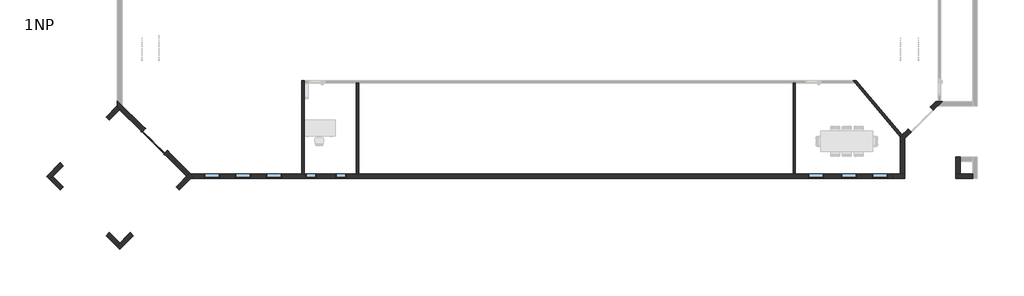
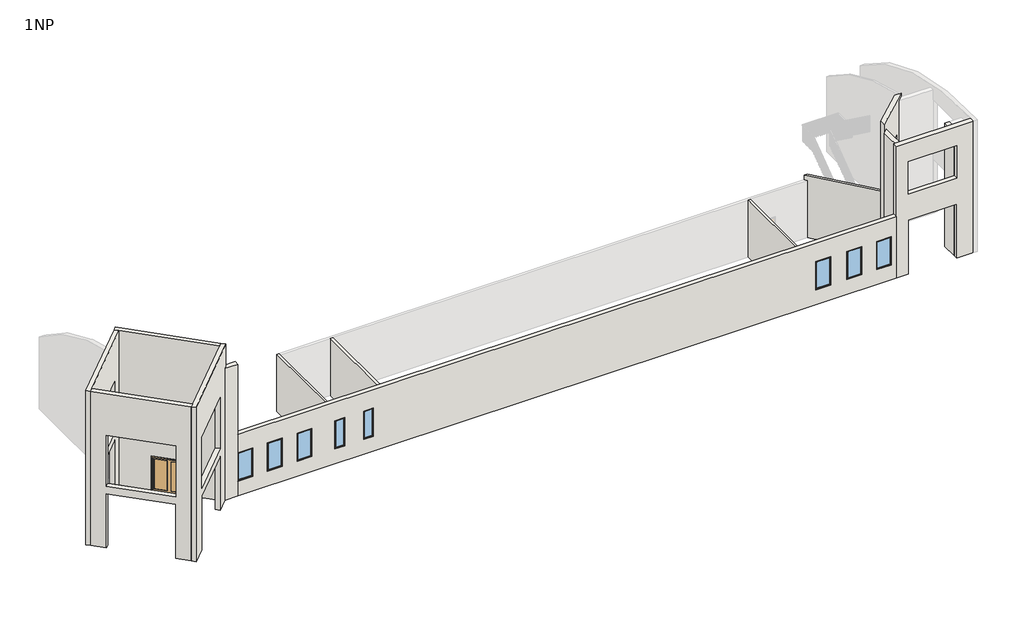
# One storey, part 1 of 2: 14 walls, 8 windows, 1 door.
"""IFC4 building model written with IfcOpenShell, lengths in millimetres."""

from ifc_helpers import new_model, si_unit, frame, origin, origin_with_axes, place, context, project, spatial, polyline, circle_curve, ellipse_curve, outline, extrude, faceted_brep, transform, mapped, element, save
from ifc_brep_helpers import plane_surface, cylinder_surface, advanced_brep
from components import door_1800_x_1970mm_ce9160c6, window_0610_x_1830mm_aeee110f, window_0915_x_1830mm_7ee91fd3

model = new_model("IFC4")

# Units and contexts
model_context = context("Model", 3, world=origin())
ifc_project = project(units=[si_unit("LENGTHUNIT", "METRE", prefix="MILLI")], contexts=[model_context])

# Site, building, storey
site = spatial("IfcSite", under=ifc_project)
building = spatial("IfcBuilding", under=site)
storey = spatial("IfcBuildingStorey", under=building, Name="1NP", Elevation=0.0)

# Door
placement = place(None, origin())
door_1800_x_1970mm_shape = door_1800_x_1970mm_ce9160c6(model_context)
element("IfcDoor", 1, ObjectType="Dvoukridle prosklene : 1800 x 1970mm", at=placement, inside=storey, context=model_context, shape_type="MappedRepresentation", body=[
    mapped(door_1800_x_1970mm_shape, transform((-9492.0310093, -2706.151406, 0.0), x_axis=(-0.7071067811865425, 0.7071067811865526, 0.0), y_axis=(-0.7071067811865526, -0.7071067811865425, 0.0), z_axis=(0.0, 0.0, 1.0))),
])

# Walls
element("IfcWall", 2, ObjectType="Exterior - EIFS on Mtl. Stud", at=placement, inside=storey, context=model_context, shape_type="AdvancedBrep", body=[
    advanced_brep(
    [(38455.6755273, -4624.9448694, 0.0), (37722.6755273, -4624.9448694, 0.0), (37455.6755273, -4624.9448694, 0.0), (37455.6755273, -4624.9448694, 3500.0), (34472.6755273, -4624.9448694, 3500.0), (34472.6755273, -4624.9448694, 0.0), (34205.6755273, -4624.9448694, 0.0), (33755.6755273, -4624.9448694, 0.0), (33755.6755273, -4624.9448694, 4000.0), (33755.6755273, -4624.9448694, 8556.4380679), (38455.6755273, -4624.9448694, 8556.4380679), (37455.6755273, -4624.9448694, 7300.0), (34472.6755273, -4624.9448694, 7300.0), (34472.6755273, -4624.9448694, 5200.0), (37455.6755273, -4624.9448694, 5200.0), (38455.6755273, -4891.9448694, 0.0), (38455.6755273, -4891.9448694, 8541.7849302), (33755.6755273, -4891.9448694, 8541.7849302), (33755.6755273, -4891.9448694, 4000.0), (33755.6755273, -4891.9448694, 0.0), (34472.6755273, -4891.9448694, 0.0), (34472.6755273, -4891.9448694, 3500.0), (37455.6755273, -4891.9448694, 3500.0), (37455.6755273, -4891.9448694, 0.0), (37455.6755273, -4891.9448694, 7300.0), (37455.6755273, -4891.9448694, 5200.0), (34472.6755273, -4891.9448694, 5200.0), (34472.6755273, -4891.9448694, 7300.0)],
    [
        (0, 1),
        (1, 2),
        (2, 3),
        (3, 4),
        (4, 5),
        (5, 6),
        (6, 7),
        (7, 8),
        (8, 9),
        (9, 10),
        (10, 0),
        (11, 12),
        (12, 13),
        (13, 14),
        (14, 11),
        (15, 16),
        (16, 17),
        (17, 18),
        (18, 19),
        (19, 20),
        (20, 21),
        (21, 22),
        (22, 23),
        (23, 15),
        (24, 25),
        (25, 26),
        (26, 27),
        (27, 24),
        (0, 15),
        (23, 2),
        (3, 22),
        (21, 4),
        (20, 5),
        (19, 7),
        (17, 9, circle_curve(frame((33755.6755273, -3782.5530793, -9232.9575956), z_axis=(-1.0, 0.0, 0.0), x_axis=(0.0, -1.0, 0.0)), 17809.3296337)),
        (11, 24),
        (27, 12),
        (13, 26),
        (25, 14),
        (10, 16, circle_curve(frame((38455.6755273, -3782.5530793, -9232.9575956), z_axis=(1.0, 0.0, 0.0), x_axis=(0.0, -1.0, 0.0)), 17809.3296337)),
    ],
    [
        plane_surface(frame((12455.6755273, -4624.9448694, 0.0), z_axis=(0.0, 1.0, 0.0), x_axis=(-1.0, 0.0, 0.0))),
        plane_surface(frame((12455.6755273, -4891.9448694, 0.0), z_axis=(0.0, -1.0, 0.0), x_axis=(1.0, 0.0, 0.0))),
        plane_surface(frame((38589.1755273, -4624.9448694, 0.0), z_axis=(0.0, 0.0, -1.0), x_axis=(0.0, -1.0, 0.0))),
        plane_surface(frame((37589.1755273, -4624.9448694, 3500.0), z_axis=(0.0, 0.0, -1.0), x_axis=(0.0, -1.0, 0.0))),
        plane_surface(frame((34472.6755273, -4624.9448694, 3500.0), z_axis=(1.0, 0.0, 0.0), x_axis=(0.0, -1.0, 0.0))),
        plane_surface(frame((34472.6755273, -4624.9448694, 0.0), z_axis=(0.0, 0.0, -1.0), x_axis=(0.0, -1.0, 0.0))),
        plane_surface(frame((33755.6755273, -4624.9448694, 0.0), z_axis=(-1.0, 0.0, 0.0), x_axis=(0.0, -1.0, 0.0))),
        plane_surface(frame((37589.1755273, -4624.9448694, 7300.0), z_axis=(0.0, 0.0, -1.0), x_axis=(0.0, -1.0, 0.0))),
        plane_surface(frame((34339.1755273, -4624.9448694, 5200.0), z_axis=(0.0, 0.0, 1.0), x_axis=(0.0, -1.0, 0.0))),
        plane_surface(frame((38455.6755273, 5741.5551306, 0.0), z_axis=(1.0, 0.0, 0.0), x_axis=(0.0, -1.0, 0.0))),
        plane_surface(frame((34472.6755273, -4758.4448694, 0.0), z_axis=(1.0, 0.0, 0.0), x_axis=(0.0, 1.0, 0.0))),
        plane_surface(frame((37455.6755273, -4758.4448694, 0.0), z_axis=(-1.0, 0.0, 0.0), x_axis=(0.0, -1.0, 0.0))),
        cylinder_surface(frame((39922.6755273, -3782.5530793, -9232.9575956), z_axis=(1.0, 0.0, 0.0), x_axis=(0.0, -1.0, 0.0)), 17809.3296337),
    ],
    [
        (0, [[1, 2, 3, 4, 5, 6, 7, 8, 9, 10, 11], [12, 13, 14, 15]]),
        (1, [[16, 17, 18, 19, 20, 21, 22, 23, 24], [25, 26, 27, 28]]),
        (2, [[-2, -1, 29, -24, 30]]),
        (3, [[-4, 31, -22, 32]]),
        (4, [[-5, -32, -21, 33]]),
        (5, [[-7, -6, -33, -20, 34]]),
        (6, [[-9, -8, -34, -19, -18, 35]]),
        (7, [[-12, 36, -28, 37]]),
        (8, [[-14, 38, -26, 39]]),
        (9, [[-11, 40, -16, -29]]),
        (10, [[-13, -37, -27, -38]]),
        (11, [[-3, -30, -23, -31]]),
        (11, [[-15, -39, -25, -36]]),
        (12, [[-10, -35, -17, -40]]),
    ],
),
])
element("IfcWall", 3, ObjectType="Exterior - EIFS on Mtl. Stud", at=placement, inside=storey, context=model_context, shape_type="AdvancedBrep", body=[
    advanced_brep(
    [(-6587.8076313, -4624.9448694, 0.0), (-7387.8076313, -4624.9448694, 0.0), (-7387.8076313, -4624.9448694, 8556.4380679), (-6587.8076313, -4624.9448694, 8556.4380679), (-6587.8076313, -4624.9448694, 8000.0), (-6587.8076313, -4624.9448694, 4000.0), (-6587.8076313, -4624.9448694, 2800.0), (-6595.0744727, -4624.9448694, 2800.0), (-6595.0744727, -4624.9448694, 970.0), (-6587.8076313, -4624.9448694, 970.0), (-7387.8076313, -4891.9448694, 0.0), (-6587.8076313, -4891.9448694, 0.0), (-6587.8076313, -4891.9448694, 970.0), (-6595.0744727, -4891.9448694, 970.0), (-6595.0744727, -4891.9448694, 2800.0), (-6587.8076313, -4891.9448694, 2800.0), (-6587.8076313, -4891.9448694, 4000.0), (-6587.8076313, -4891.9448694, 8000.0), (-6587.8076313, -4891.9448694, 8541.7849302), (-7387.8076313, -4891.9448694, 8541.7849302), (-7254.3076313, -4758.4448694, 0.0), (-7254.3076313, -4758.4448694, 8549.6141311)],
    [
        (0, 1),
        (1, 2),
        (2, 3),
        (3, 4),
        (4, 5),
        (5, 6),
        (6, 7),
        (7, 8),
        (8, 9),
        (9, 0),
        (10, 11),
        (11, 12),
        (12, 13),
        (13, 14),
        (14, 15),
        (15, 16),
        (16, 17),
        (17, 18),
        (18, 19),
        (19, 10),
        (0, 11),
        (10, 20),
        (20, 1),
        (9, 12),
        (3, 18, circle_curve(frame((-6587.8076313, -3782.5530793, -9232.9575956), z_axis=(1.0, 0.0, 0.0), x_axis=(0.0, -1.0, 0.0)), 17809.3296337)),
        (15, 6),
        (20, 21),
        (21, 2, ellipse_curve(frame((-8230.1994214, -3782.5530793, -9232.9575956), z_axis=(-0.7071067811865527, -0.7071067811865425, 0.0), x_axis=(0.7071067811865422, -0.7071067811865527, 0.0)), 25186.1955048, 17809.3296337)),
        (19, 21, ellipse_curve(frame((-6278.4158411, -3782.5530793, -9232.9575956), z_axis=(-0.7071067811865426, 0.7071067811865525, 0.0), x_axis=(0.7071067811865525, 0.7071067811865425, 0.0)), 25186.1955048, 17809.3296337)),
        (14, 7),
        (13, 8),
    ],
    [
        plane_surface(frame((12455.6755273, -4624.9448694, 0.0), z_axis=(0.0, 1.0, 0.0), x_axis=(-1.0, 0.0, 0.0))),
        plane_surface(frame((12455.6755273, -4891.9448694, 0.0), z_axis=(0.0, -1.0, 0.0), x_axis=(1.0, 0.0, 0.0))),
        plane_surface(frame((-6587.8076313, -4624.9448694, 0.0), z_axis=(0.0, 0.0, -1.0), x_axis=(0.0, -1.0, 0.0))),
        plane_surface(frame((-6587.8076313, -4624.9448694, 4000.0), z_axis=(1.0, 0.0, 0.0), x_axis=(0.0, -1.0, 0.0))),
        plane_surface(frame((-9352.1166743, -2660.6358263, -200.0), z_axis=(-0.7071067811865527, -0.7071067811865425, 0.0), x_axis=(0.7071067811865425, -0.7071067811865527, 0.0))),
        plane_surface(frame((-9352.1166743, -6856.2539125, -200.0), z_axis=(-0.7071067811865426, 0.7071067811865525, 0.0), x_axis=(-0.7071067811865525, -0.7071067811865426, 0.0))),
        cylinder_surface(frame((39922.6755273, -3782.5530793, -9232.9575956), z_axis=(1.0, 0.0, 0.0), x_axis=(0.0, -1.0, 0.0)), 17809.3296337),
        plane_surface(frame((-5680.0744727, -6148.9448694, 2800.0), z_axis=(0.0, 0.0, -1.0), x_axis=(0.0, 1.0, 0.0))),
        plane_surface(frame((-6595.0744727, -6148.9448694, 2800.0), z_axis=(1.0, 0.0, 0.0), x_axis=(0.0, 1.0, 0.0))),
        plane_surface(frame((-6595.0744727, -6148.9448694, 970.0), z_axis=(0.0, 0.0, 1.0), x_axis=(0.0, 1.0, 0.0))),
    ],
    [
        (0, [[1, 2, 3, 4, 5, 6, 7, 8, 9, 10]]),
        (1, [[11, 12, 13, 14, 15, 16, 17, 18, 19, 20]]),
        (2, [[-1, 21, -11, 22, 23]]),
        (3, [[-21, -10, 24, -12]]),
        (3, [[25, -18, -17, -16, 26, -6, -5, -4]]),
        (4, [[-2, -23, 27, 28]]),
        (5, [[-20, 29, -27, -22]]),
        (6, [[-3, -28, -29, -19, -25]]),
        (7, [[30, -7, -26, -15]]),
        (8, [[-30, -14, 31, -8]]),
        (9, [[-31, -13, -24, -9]]),
    ],
),
])
element("IfcWall", 4, ObjectType="Exterior - EIFS on Mtl. Stud", at=placement, inside=storey, context=model_context, shape_type="Brep", body=[
    faceted_brep([(37722.6755273, -4624.9448694, 8000.0), (37722.6755273, -4624.9448694, 0.0), (37722.6755273, -3891.9448694, 0.0), (37722.6755273, -3624.9448694, 0.0), (37722.6755273, -3624.9448694, 8000.0), (37722.6755273, -3891.9448694, 8000.0), (37455.6755273, -4624.9448694, 0.0), (37455.6755273, -4624.9448694, 3500.0), (37455.6755273, -4624.9448694, 5200.0), (37455.6755273, -4624.9448694, 7300.0), (37455.6755273, -4624.9448694, 8000.0), (37455.6755273, -3624.9448694, 8000.0), (37455.6755273, -3624.9448694, 0.0)], [[[0, 1, 2, 3, 4, 5]], [[6, 7, 8, 9, 10, 11, 12]], [[3, 2, 1, 6, 12]], [[0, 5, 4, 11, 10]], [[4, 3, 12, 11]], [[0, 10, 9, 8, 7, 6, 1]]]),
])
element("IfcWall", 5, ObjectType="Exterior - EIFS on Mtl. Stud", at=placement, inside=storey, context=model_context, shape_type="AdvancedBrep", body=[
    advanced_brep(
    [(36270.5742736, -374.9448694, 0.0), (35951.8776052, -693.6415378, 0.0), (35951.8776052, -693.6415378, 2134.0), (34657.8721956, -1987.6469473, 2134.0), (34657.8721956, -1987.6469473, 0.0), (34302.1897841, -2343.3293589, 0.0), (34205.6755273, -2439.8436157, 0.0), (34205.6755273, -2439.8436157, 4000.0), (34205.6755273, -2439.8436157, 8525.6840557), (36270.5742736, -374.9448694, 8247.3292525), (35823.8290879, -821.6900551, 4000.0), (35823.8290879, -821.6900551, 6134.0), (34529.8236783, -2115.6954646, 6134.0), (34529.8236783, -2115.6954646, 4000.0), (36140.6751158, -882.4390484, 2134.0), (36140.6751158, -882.4390484, 0.0), (36381.1692947, -641.9448694, 0.0), (36648.1692947, -374.9448694, 0.0), (36648.1692947, -374.9448694, 8000.0), (36648.1692947, -374.9448694, 8247.3292525), (34205.6755273, -2817.4386368, 8550.2023068), (34205.6755273, -2817.4386368, 8000.0), (34205.6755273, -2817.4386368, 0.0), (34472.6755273, -2550.4386368, 0.0), (34846.6697062, -2176.4444579, 0.0), (34846.6697062, -2176.4444579, 2134.0), (36012.6265985, -1010.4875656, 4000.0), (34718.6211889, -2304.4929752, 4000.0), (34718.6211889, -2304.4929752, 6134.0), (36012.6265985, -1010.4875656, 6134.0), (36419.9255273, -374.9448694, 0.0), (36558.4255273, -374.9448694, 0.0), (34205.6755273, -2443.7758967, 0.0), (36419.9255273, -374.9448694, 8247.3292525), (36558.4255273, -374.9448694, 8247.3292525)],
    [
        (0, 1),
        (1, 2),
        (2, 3),
        (3, 4),
        (4, 5),
        (5, 6),
        (6, 7),
        (7, 8),
        (8, 9, ellipse_curve(frame((32862.9660637, -3782.5530793, -9232.9575956), z_axis=(-0.7071067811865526, 0.7071067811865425, 0.0), x_axis=(0.7071067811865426, 0.7071067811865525, 0.0)), 25186.1955048, 17809.3296337)),
        (9, 0),
        (10, 11),
        (11, 12),
        (12, 13),
        (13, 10),
        (14, 15),
        (15, 16),
        (16, 17),
        (17, 18),
        (18, 19),
        (19, 20, ellipse_curve(frame((33240.5610849, -3782.5530793, -9232.9575956), z_axis=(0.7071067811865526, -0.7071067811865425, 0.0), x_axis=(0.7071067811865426, 0.7071067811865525, 0.0)), 25186.1955048, 17809.3296337)),
        (20, 21),
        (21, 22),
        (22, 23),
        (23, 24),
        (24, 25),
        (25, 14),
        (26, 27),
        (27, 28),
        (28, 29),
        (29, 26),
        (15, 1),
        (0, 30),
        (30, 31),
        (31, 17),
        (22, 32),
        (32, 6),
        (4, 24),
        (9, 33),
        (33, 34),
        (34, 19),
        (20, 8, circle_curve(frame((34205.6755273, -3782.5530793, -9232.9575956), z_axis=(-1.0, 0.0, 0.0), x_axis=(0.0, -1.0, 0.0)), 17809.3296337)),
        (14, 2),
        (25, 3),
        (26, 10),
        (13, 27),
        (12, 28),
        (11, 29),
    ],
    [
        plane_surface(frame((38416.1447376, 1770.6255947, 0.0), z_axis=(-0.7071067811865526, 0.7071067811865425, 0.0), x_axis=(-0.7071067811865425, -0.7071067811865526, 0.0))),
        plane_surface(frame((38604.9422482, 1581.8280841, 0.0), z_axis=(0.7071067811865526, -0.7071067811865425, 0.0), x_axis=(0.7071067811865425, 0.7071067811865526, 0.0))),
        plane_surface(frame((36231.4730288, -414.0461141, 0.0), z_axis=(0.0, 0.0, -1.0), x_axis=(0.7071067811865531, -0.707106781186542, 0.0))),
        plane_surface(frame((38455.6755273, -374.9448694, 0.0), z_axis=(0.0, 1.0, 0.0), x_axis=(-1.0, 0.0, 0.0))),
        plane_surface(frame((34205.6755273, -4758.4448694, 0.0), z_axis=(-1.0, 0.0, 0.0), x_axis=(0.0, -1.0, 0.0))),
        cylinder_surface(frame((39922.6755273, -3782.5530793, -9232.9575956), z_axis=(1.0, 0.0, 0.0), x_axis=(0.0, -1.0, 0.0)), 17809.3296337),
        plane_surface(frame((35951.8776052, -693.6415378, 0.0), z_axis=(-0.7071067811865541, -0.7071067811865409, 0.0), x_axis=(0.7071067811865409, -0.7071067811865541, 0.0))),
        plane_surface(frame((35951.8776052, -693.6415378, 2134.0), z_axis=(0.0, 0.0, -1.0), x_axis=(0.7071067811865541, -0.7071067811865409, 0.0))),
        plane_surface(frame((34657.8721956, -1987.6469473, 2134.0), z_axis=(0.707106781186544, 0.7071067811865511, 0.0), x_axis=(0.7071067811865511, -0.707106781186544, 0.0))),
        plane_surface(frame((36012.6265985, -1010.4875656, 4000.0), z_axis=(0.0, 0.0, 1.0), x_axis=(-0.7071067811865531, 0.707106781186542, 0.0))),
        plane_surface(frame((34718.6211889, -2304.4929752, 4000.0), z_axis=(0.707106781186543, 0.7071067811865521, 0.0), x_axis=(-0.7071067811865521, 0.707106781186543, 0.0))),
        plane_surface(frame((34718.6211889, -2304.4929752, 6134.0), z_axis=(0.0, 0.0, -1.0000000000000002), x_axis=(-0.707106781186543, 0.7071067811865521, 0.0))),
        plane_surface(frame((36012.6265985, -1010.4875656, 6134.0), z_axis=(-0.707106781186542, -0.7071067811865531, 0.0), x_axis=(-0.7071067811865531, 0.707106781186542, 0.0))),
    ],
    [
        (0, [[1, 2, 3, 4, 5, 6, 7, 8, 9, 10], [11, 12, 13, 14]]),
        (1, [[15, 16, 17, 18, 19, 20, 21, 22, 23, 24, 25, 26], [27, 28, 29, 30]]),
        (2, [[-17, -16, 31, -1, 32, 33, 34]]),
        (2, [[-24, -23, 35, 36, -6, -5, 37]]),
        (3, [[-10, 38, 39, 40, -19, -18, -34, -33, -32]]),
        (4, [[-36, -35, -22, -21, 41, -8, -7]]),
        (5, [[-9, -41, -20, -40, -39, -38]]),
        (6, [[-2, -31, -15, 42]]),
        (7, [[-3, -42, -26, 43]]),
        (8, [[-4, -43, -25, -37]]),
        (9, [[-27, 44, -14, 45]]),
        (10, [[-28, -45, -13, 46]]),
        (11, [[-29, -46, -12, 47]]),
        (12, [[-30, -47, -11, -44]]),
    ],
),
])
element("IfcWall", 6, ObjectType="Exterior - EIFS on Mtl. Stud", at=placement, inside=storey, context=model_context, shape_type="Brep", body=[
    faceted_brep([(34472.6755273, -4624.9448694, 8000.0), (34472.6755273, -4624.9448694, 7300.0), (34472.6755273, -4624.9448694, 5200.0), (34472.6755273, -4624.9448694, 3500.0), (34472.6755273, -4624.9448694, 0.0), (34472.6755273, -2550.4386368, 0.0), (34472.6755273, -2550.4386368, 8000.0), (34205.6755273, -4624.9448694, 0.0), (34205.6755273, -4624.9448694, 8000.0), (34205.6755273, -2817.4386368, 8000.0), (34205.6755273, -2817.4386368, 0.0)], [[[0, 1, 2, 3, 4, 5, 6]], [[7, 8, 9, 10]], [[5, 4, 7, 10]], [[0, 6, 9, 8]], [[5, 10, 9, 6]], [[0, 8, 7, 4, 3, 2, 1]]]),
])
element("IfcWall", 7, ObjectType="Exterior - EIFS on Mtl. Stud", at=placement, inside=storey, context=model_context, shape_type="Brep", body=[
    faceted_brep([(33755.6755273, -4624.9448694, 0.0), (28058.4255273, -4624.9448694, 0.0), (27919.9255273, -4624.9448694, 0.0), (2458.4255273, -4624.9448694, 0.0), (2319.9255273, -4624.9448694, 0.0), (-741.5744727, -4624.9448694, 0.0), (-880.0744727, -4624.9448694, 0.0), (-6587.8076313, -4624.9448694, 0.0), (-6587.8076313, -4624.9448694, 970.0), (-5680.0744727, -4624.9448694, 970.0), (-5680.0744727, -4624.9448694, 2800.0), (-6587.8076313, -4624.9448694, 2800.0), (-6587.8076313, -4624.9448694, 4000.0), (33755.6755273, -4624.9448694, 4000.0), (33455.6755273, -4624.9448694, 970.0), (33455.6755273, -4624.9448694, 2800.0), (32540.6755273, -4624.9448694, 2800.0), (32540.6755273, -4624.9448694, 970.0), (31640.6755273, -4624.9448694, 970.0), (31640.6755273, -4624.9448694, 2800.0), (30725.6755273, -4624.9448694, 2800.0), (30725.6755273, -4624.9448694, 970.0), (29725.6755273, -4624.9448694, 970.0), (29725.6755273, -4624.9448694, 2800.0), (28810.6755273, -4624.9448694, 2800.0), (28810.6755273, -4624.9448694, 970.0), (-3865.0744727, -4624.9448694, 970.0), (-3865.0744727, -4624.9448694, 2800.0), (-4780.0744727, -4624.9448694, 2800.0), (-4780.0744727, -4624.9448694, 970.0), (-2050.0744727, -4624.9448694, 970.0), (-2050.0744727, -4624.9448694, 2800.0), (-2965.0744727, -4624.9448694, 2800.0), (-2965.0744727, -4624.9448694, 970.0), (-31.5744727, -4624.9448694, 970.0), (-31.5744727, -4624.9448694, 2800.0), (-641.5744727, -4624.9448694, 2800.0), (-641.5744727, -4624.9448694, 970.0), (1719.9255273, -4624.9448694, 970.0), (1719.9255273, -4624.9448694, 2800.0), (1109.9255273, -4624.9448694, 2800.0), (1109.9255273, -4624.9448694, 970.0), (-6587.8076313, -4891.9448694, 0.0), (33755.6755273, -4891.9448694, 0.0), (33755.6755273, -4891.9448694, 4000.0), (-6587.8076313, -4891.9448694, 4000.0), (-6587.8076313, -4891.9448694, 2800.0), (-5680.0744727, -4891.9448694, 2800.0), (-5680.0744727, -4891.9448694, 970.0), (-6587.8076313, -4891.9448694, 970.0), (33455.6755273, -4891.9448694, 2800.0), (33455.6755273, -4891.9448694, 970.0), (32540.6755273, -4891.9448694, 970.0), (32540.6755273, -4891.9448694, 2800.0), (31640.6755273, -4891.9448694, 2800.0), (31640.6755273, -4891.9448694, 970.0), (30725.6755273, -4891.9448694, 970.0), (30725.6755273, -4891.9448694, 2800.0), (29725.6755273, -4891.9448694, 2800.0), (29725.6755273, -4891.9448694, 970.0), (28810.6755273, -4891.9448694, 970.0), (28810.6755273, -4891.9448694, 2800.0), (-3865.0744727, -4891.9448694, 970.0), (-4780.0744727, -4891.9448694, 970.0), (-4780.0744727, -4891.9448694, 2800.0), (-3865.0744727, -4891.9448694, 2800.0), (-2050.0744727, -4891.9448694, 970.0), (-2965.0744727, -4891.9448694, 970.0), (-2965.0744727, -4891.9448694, 2800.0), (-2050.0744727, -4891.9448694, 2800.0), (-31.5744727, -4891.9448694, 970.0), (-641.5744727, -4891.9448694, 970.0), (-641.5744727, -4891.9448694, 2800.0), (-31.5744727, -4891.9448694, 2800.0), (1719.9255273, -4891.9448694, 970.0), (1109.9255273, -4891.9448694, 970.0), (1109.9255273, -4891.9448694, 2800.0), (1719.9255273, -4891.9448694, 2800.0)], [[[0, 1, 2, 3, 4, 5, 6, 7, 8, 9, 10, 11, 12, 13], [14, 15, 16, 17], [18, 19, 20, 21], [22, 23, 24, 25], [26, 27, 28, 29], [30, 31, 32, 33], [34, 35, 36, 37], [38, 39, 40, 41]], [[42, 43, 44, 45, 46, 47, 48, 49], [50, 51, 52, 53], [54, 55, 56, 57], [58, 59, 60, 61], [62, 63, 64, 65], [66, 67, 68, 69], [70, 71, 72, 73], [74, 75, 76, 77]], [[7, 6, 5, 4, 3, 2, 1, 0, 43, 42]], [[7, 42, 49, 8]], [[45, 12, 11, 46]], [[13, 12, 45, 44]], [[13, 44, 43, 0]], [[15, 14, 51, 50]], [[16, 15, 50, 53]], [[17, 16, 53, 52]], [[14, 17, 52, 51]], [[19, 18, 55, 54]], [[20, 19, 54, 57]], [[21, 20, 57, 56]], [[18, 21, 56, 55]], [[23, 22, 59, 58]], [[24, 23, 58, 61]], [[25, 24, 61, 60]], [[22, 25, 60, 59]], [[9, 48, 47, 10]], [[10, 47, 46, 11]], [[48, 9, 8, 49]], [[27, 26, 62, 65]], [[28, 27, 65, 64]], [[29, 28, 64, 63]], [[26, 29, 63, 62]], [[31, 30, 66, 69]], [[32, 31, 69, 68]], [[33, 32, 68, 67]], [[30, 33, 67, 66]], [[35, 34, 70, 73]], [[36, 35, 73, 72]], [[37, 36, 72, 71]], [[34, 37, 71, 70]], [[39, 38, 74, 77]], [[40, 39, 77, 76]], [[41, 40, 76, 75]], [[38, 41, 75, 74]]]),
])
element("IfcWall", 8, ObjectType="Exterior - EIFS on Mtl. Stud 2side", at=placement, inside=storey, context=model_context, shape_type="Brep", body=[
    faceted_brep([(-7443.1051418, -4569.6473588, 10000.0), (-7443.1051418, -4569.6473588, 0.0), (-7631.9026524, -4758.4448694, 0.0), (-8244.6106783, -5371.1528953, 0.0), (-8244.6106783, -5371.1528953, 3500.0), (-10931.6164468, -8058.1586638, 3500.0), (-10931.6164468, -8058.1586638, 0.0), (-11544.3244727, -8670.8666897, 0.0), (-11733.1219833, -8859.6642003, 0.0), (-11733.1219833, -8859.6642003, 10000.0), (-11544.3244727, -8670.8666897, 10000.0), (-7631.9026524, -4758.4448694, 10000.0), (-8244.6106783, -5371.1528953, 4000.0), (-8244.6106783, -5371.1528953, 7300.0), (-10931.6164468, -8058.1586638, 7300.0), (-10931.6164468, -8058.1586638, 4000.0), (-7254.3076313, -4758.4448694, 0.0), (-7254.3076313, -4758.4448694, 8549.6141311), (-7254.3076313, -4758.4448694, 10000.0), (-11544.3244727, -9048.4617109, 10000.0), (-11544.3244727, -9048.4617109, 0.0), (-10742.8189362, -8246.9561744, 0.0), (-10742.8189362, -8246.9561744, 3500.0), (-8055.8131677, -5559.9504059, 3500.0), (-8055.8131677, -5559.9504059, 0.0), (-7387.8076313, -4891.9448694, 0.0), (-8055.8131677, -5559.9504059, 4000.0), (-10742.8189362, -8246.9561744, 4000.0), (-10742.8189362, -8246.9561744, 7300.0), (-8055.8131677, -5559.9504059, 7300.0), (-7387.8076313, -4624.9448694, 0.0)], [[[0, 1, 2, 3, 4, 5, 6, 7, 8, 9, 10, 11], [12, 13, 14, 15]], [[16, 17, 18, 19, 20, 21, 22, 23, 24, 25], [26, 27, 28, 29]], [[3, 2, 1, 30, 16, 25, 24]], [[4, 3, 24, 23]], [[5, 4, 23, 22]], [[6, 5, 22, 21]], [[8, 7, 6, 21, 20]], [[0, 11, 10, 9, 19, 18]], [[13, 12, 26, 29]], [[14, 13, 29, 28]], [[15, 14, 28, 27]], [[12, 15, 27, 26]], [[0, 18, 17, 16, 30, 1]], [[9, 8, 20, 19]]]),
])
element("IfcWall", 9, ObjectType="Exterior - EIFS on Mtl. Stud 2side", at=placement, inside=storey, context=model_context, shape_type="Brep", body=[
    faceted_brep([(-7631.9026524, -4758.4448694, 10000.0), (-11544.3244727, -846.0230491, 10000.0), (-11733.1219833, -657.2255385, 10000.0), (-11733.1219833, -657.2255385, 8290.0514578), (-11677.8244727, -712.5230491, 8290.0514578), (-11677.8244727, -712.5230491, 0.0), (-11544.3244727, -846.0230491, 0.0), (-10235.1162674, -2155.2312545, 0.0), (-10235.1162674, -2155.2312545, 2134.0), (-8941.1108578, -3449.2366641, 2134.0), (-8941.1108578, -3449.2366641, 0.0), (-7631.9026524, -4758.4448694, 0.0), (-11544.3244727, -468.428028, 10000.0), (-7443.1051418, -4569.6473588, 10000.0), (-7443.1051418, -4569.6473588, 0.0), (-8752.3133472, -3260.4391535, 0.0), (-8752.3133472, -3260.4391535, 2134.0), (-10046.3187568, -1966.4337439, 2134.0), (-10046.3187568, -1966.4337439, 0.0), (-11410.8244727, -601.928028, 0.0), (-11677.8244727, -334.928028, 0.0), (-11677.8244727, -334.928028, 8239.4808006), (-11677.8244727, -334.928028, 8290.0514578), (-11544.3244727, -468.428028, 8290.0514578), (-11677.8244727, -601.928028, 0.0), (-11677.8244727, -601.928028, 8290.0514578)], [[[0, 1, 2, 3, 4, 5, 6, 7, 8, 9, 10, 11]], [[12, 13, 14, 15, 16, 17, 18, 19, 20, 21, 22, 23]], [[5, 24, 20, 19, 18, 7, 6]], [[14, 11, 10, 15]], [[2, 1, 0, 13, 12]], [[4, 3, 25]], [[5, 4, 25, 22, 21, 20, 24]], [[3, 2, 12, 23, 25]], [[23, 22, 25]], [[11, 14, 13, 0]], [[8, 7, 18, 17]], [[9, 8, 17, 16]], [[10, 9, 16, 15]]]),
])
element("IfcWall", 10, ObjectType="Exterior - EIFS on Mtl. Stud 2side", at=placement, inside=storey, context=model_context, shape_type="Brep", body=[
    faceted_brep([(-11677.8244727, -601.928028, 0.0), (-12345.8300092, -1269.9335644, 0.0), (-12345.8300092, -1269.9335644, 3500.0), (-15032.8357777, -3956.939333, 3500.0), (-15032.8357777, -3956.939333, 0.0), (-15834.3413142, -4758.4448694, 0.0), (-15834.3413142, -4758.4448694, 10000.0), (-11733.1219833, -657.2255385, 10000.0), (-11733.1219833, -657.2255385, 8290.0514578), (-11677.8244727, -601.928028, 8290.0514578), (-12345.8300092, -1269.9335644, 4000.0), (-12345.8300092, -1269.9335644, 7300.0), (-15032.8357777, -3956.939333, 7300.0), (-15032.8357777, -3956.939333, 4000.0), (-11544.3244727, -846.0230491, 0.0), (-11544.3244727, -846.0230491, 8290.0514578), (-11544.3244727, -846.0230491, 10000.0), (-15456.746293, -4758.4448694, 10000.0), (-15645.5438036, -4947.24238, 10000.0), (-15645.5438036, -4947.24238, 0.0), (-15456.746293, -4758.4448694, 0.0), (-14844.0382671, -4145.7368435, 0.0), (-14844.0382671, -4145.7368435, 3500.0), (-12157.0324986, -1458.731075, 3500.0), (-12157.0324986, -1458.731075, 0.0), (-12157.0324986, -1458.731075, 4000.0), (-14844.0382671, -4145.7368435, 4000.0), (-14844.0382671, -4145.7368435, 7300.0), (-12157.0324986, -1458.731075, 7300.0), (-11677.8244727, -712.5230491, 0.0), (-11677.8244727, -712.5230491, 8290.0514578)], [[[0, 1, 2, 3, 4, 5, 6, 7, 8, 9], [10, 11, 12, 13]], [[14, 15, 16, 17, 18, 19, 20, 21, 22, 23, 24], [25, 26, 27, 28]], [[1, 0, 29, 14, 24]], [[2, 1, 24, 23]], [[3, 2, 23, 22]], [[4, 3, 22, 21]], [[5, 4, 21, 20, 19]], [[7, 6, 18, 17, 16]], [[11, 10, 25, 28]], [[12, 11, 28, 27]], [[13, 12, 27, 26]], [[10, 13, 26, 25]], [[6, 5, 19, 18]], [[8, 30, 9]], [[0, 9, 30, 29]], [[30, 15, 14, 29]], [[8, 7, 16, 15, 30]]]),
])
element("IfcWall", 11, ObjectType="Exterior - EIFS on Mtl. Stud 2side", at=placement, inside=storey, context=model_context, shape_type="SweptSolid", body=[
    extrude(outline(polyline([(133.5, 0.0), (1000.0, 0.0), (1000.0, -3500.0), (4800.0, -3500.0), (4800.0, 0.0), (5666.5, 0.0), (5666.5, -10000.0), (133.5, -10000.0), (133.5, 0.0)]), holes=[polyline([(1000.0, -4000.0), (1000.0, -7300.0), (4800.0, -7300.0), (4800.0, -4000.0), (1000.0, -4000.0)])]), frame((-15739.9425589, -4852.8436247, 0.0), z_axis=(0.7071067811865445, 0.7071067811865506, 0.0), x_axis=(0.7071067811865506, -0.7071067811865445, 0.0)), (0.0, 0.0, 1.0), 267.0),
])
element("IfcWall", 12, ObjectType="Interior - 138mm Partition (1-hr)", at=placement, inside=storey, context=model_context, shape_type="Brep", body=[
    faceted_brep([(-741.5744727, -4624.9448694, 0.0), (-741.5744727, 722.3051306, 0.0), (-741.5744727, 860.8051306, 0.0), (-741.5744727, 860.8051306, 3700.0), (-741.5744727, 722.3051306, 3700.0), (-741.5744727, -4624.9448694, 3700.0), (-880.0744727, -4624.9448694, 0.0), (-880.0744727, -4624.9448694, 3700.0), (-880.0744727, 860.8051306, 3700.0), (-880.0744727, 860.8051306, 0.0)], [[[0, 1, 2, 3, 4, 5]], [[6, 7, 8, 9]], [[2, 1, 0, 6, 9]], [[5, 4, 3, 8, 7]], [[3, 2, 9, 8]], [[0, 5, 7, 6]]]),
])
element("IfcWall", 13, ObjectType="Interior - 138mm Partition (1-hr)", at=placement, inside=storey, context=model_context, shape_type="SweptSolid", body=[
    extrude(outline(polyline([(28058.4255273, 722.3051306), (28058.4255273, -4624.9448694), (27919.9255273, -4624.9448694), (27919.9255273, 722.3051306), (28058.4255273, 722.3051306)])), origin_with_axes(), (0.0, 0.0, 1.0), 3700.0),
])
element("IfcWall", 14, ObjectType="Interior - 138mm Partition (1-hr)", at=placement, inside=storey, context=model_context, shape_type="Brep", body=[
    faceted_brep([(34302.1897841, -2343.3293589, 0.0), (31613.6017157, 860.8051306, 0.0), (31613.6017157, 860.8051306, 4000.0), (34302.1897841, -2343.3293589, 4000.0), (34205.6755273, -2443.7758967, 0.0), (34205.6755273, -2443.7758967, 4000.0), (31432.8028061, 860.8051306, 4000.0), (31432.8028061, 860.8051306, 3700.0), (31432.8028061, 860.8051306, 0.0), (31549.018105, 722.3051306, 0.0), (34205.6755273, -2439.8436157, 0.0), (34205.6755273, -2439.8436157, 4000.0)], [[[0, 1, 2, 3]], [[4, 5, 6, 7, 8, 9]], [[1, 0, 10, 4, 9, 8]], [[3, 2, 6, 5, 11]], [[2, 1, 8, 7, 6]], [[0, 3, 11, 10]], [[11, 5, 4, 10]]]),
])
element("IfcWall", 15, ObjectType="Interior - 138mm Partition (1-hr)", at=placement, inside=storey, context=model_context, shape_type="SweptSolid", body=[
    extrude(outline(polyline([(2458.4255273, 722.3051306), (2458.4255273, -4624.9448694), (2319.9255273, -4624.9448694), (2319.9255273, 722.3051306), (2458.4255273, 722.3051306)])), origin_with_axes(), (0.0, 0.0, 1.0), 3700.0),
])

# Windows
window_0610_x_1830mm_shape = window_0610_x_1830mm_aeee110f(model_context)
element("IfcWindow", 16, ObjectType="Pevne : 0610 x 1830mm", at=placement, inside=storey, context=model_context, shape_type="MappedRepresentation", body=[
    mapped(window_0610_x_1830mm_shape, transform((-336.5744727, -4745.4448694, 665.0), x_axis=(-1.0, 0.0, 0.0), y_axis=(0.0, -1.0, 0.0), z_axis=(0.0, 0.0, 1.0))),
])
element("IfcWindow", 17, ObjectType="Pevne : 0610 x 1830mm", at=placement, inside=storey, context=model_context, shape_type="MappedRepresentation", body=[
    mapped(window_0610_x_1830mm_shape, transform((1414.9255273, -4745.4448694, 665.0), x_axis=(-1.0, 0.0, 0.0), y_axis=(0.0, -1.0, 0.0), z_axis=(0.0, 0.0, 1.0))),
])
window_0915_x_1830mm_shape = window_0915_x_1830mm_7ee91fd3(model_context)
element("IfcWindow", 18, ObjectType="Pevne : 0915 x 1830mm", at=placement, inside=storey, context=model_context, shape_type="MappedRepresentation", body=[
    mapped(window_0915_x_1830mm_shape, transform((32998.1755273, -4745.4448694, 665.0), x_axis=(-1.0, 0.0, 0.0), y_axis=(0.0, -1.0, 0.0), z_axis=(0.0, 0.0, 1.0))),
])
element("IfcWindow", 19, ObjectType="Pevne : 0915 x 1830mm", at=placement, inside=storey, context=model_context, shape_type="MappedRepresentation", body=[
    mapped(window_0915_x_1830mm_shape, transform((31183.1755273, -4745.4448694, 665.0), x_axis=(-1.0, 0.0, 0.0), y_axis=(0.0, -1.0, 0.0), z_axis=(0.0, 0.0, 1.0))),
])
element("IfcWindow", 20, ObjectType="Pevne : 0915 x 1830mm", at=placement, inside=storey, context=model_context, shape_type="MappedRepresentation", body=[
    mapped(window_0915_x_1830mm_shape, transform((29268.1755273, -4745.4448694, 665.0), x_axis=(-1.0, 0.0, 0.0), y_axis=(0.0, -1.0, 0.0), z_axis=(0.0, 0.0, 1.0))),
])
element("IfcWindow", 21, ObjectType="Pevne : 0915 x 1830mm", at=placement, inside=storey, context=model_context, shape_type="MappedRepresentation", body=[
    mapped(window_0915_x_1830mm_shape, transform((-6137.5744727, -4745.4448694, 665.0), x_axis=(-1.0, 0.0, 0.0), y_axis=(0.0, -1.0, 0.0), z_axis=(0.0, 0.0, 1.0))),
])
element("IfcWindow", 22, ObjectType="Pevne : 0915 x 1830mm", at=placement, inside=storey, context=model_context, shape_type="MappedRepresentation", body=[
    mapped(window_0915_x_1830mm_shape, transform((-4322.5744727, -4745.4448694, 665.0), x_axis=(-1.0, 0.0, 0.0), y_axis=(0.0, -1.0, 0.0), z_axis=(0.0, 0.0, 1.0))),
])
element("IfcWindow", 23, ObjectType="Pevne : 0915 x 1830mm", at=placement, inside=storey, context=model_context, shape_type="MappedRepresentation", body=[
    mapped(window_0915_x_1830mm_shape, transform((-2507.5744727, -4745.4448694, 665.0), x_axis=(-1.0, 0.0, 0.0), y_axis=(0.0, -1.0, 0.0), z_axis=(0.0, 0.0, 1.0))),
])

save(model, "model.ifc")
